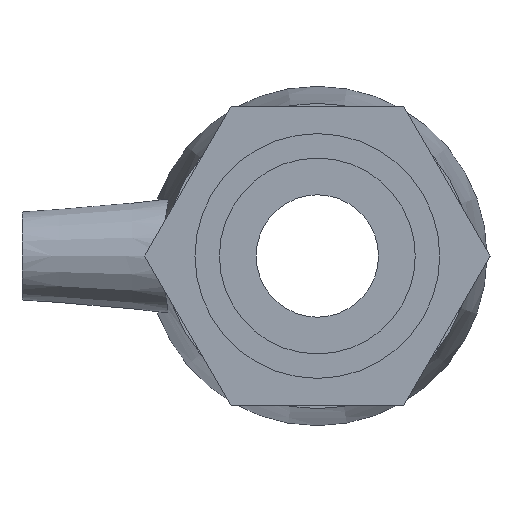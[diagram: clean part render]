
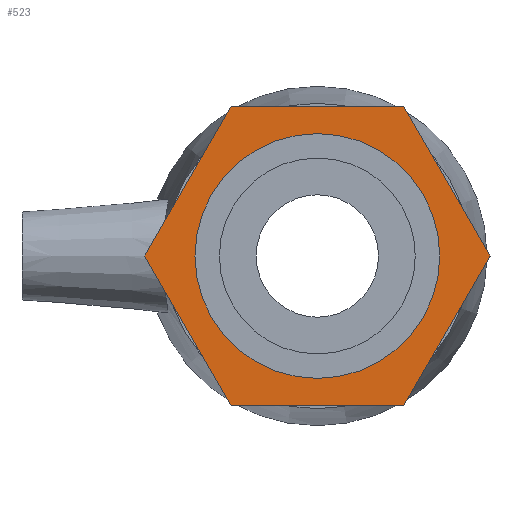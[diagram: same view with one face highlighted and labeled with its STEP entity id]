
A CAD part, left-side view. The second image highlights one B-rep face of the part: STEP entity #523.
In plain terms, the highlighted planar face has unit normal (-1, 0, 0).
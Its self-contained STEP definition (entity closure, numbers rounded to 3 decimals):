
#36=FACE_BOUND('',#154,.T.);
#68=CIRCLE('',#606,19.476);
#107=FACE_OUTER_BOUND('',#153,.T.);
#153=EDGE_LOOP('',(#447,#448,#449,#450,#451,#452));
#154=EDGE_LOOP('',(#453));
#165=LINE('',#788,#199);
#169=LINE('',#795,#203);
#172=LINE('',#801,#206);
#175=LINE('',#807,#209);
#178=LINE('',#813,#212);
#180=LINE('',#816,#214);
#199=VECTOR('',#622,10.);
#203=VECTOR('',#628,10.);
#206=VECTOR('',#633,10.);
#209=VECTOR('',#638,10.);
#212=VECTOR('',#643,10.);
#214=VECTOR('',#647,10.);
#233=VERTEX_POINT('',#785);
#234=VERTEX_POINT('',#787);
#236=VERTEX_POINT('',#793);
#238=VERTEX_POINT('',#799);
#240=VERTEX_POINT('',#805);
#242=VERTEX_POINT('',#811);
#271=VERTEX_POINT('',#978);
#277=EDGE_CURVE('',#234,#233,#165,.T.);
#281=EDGE_CURVE('',#233,#236,#169,.T.);
#284=EDGE_CURVE('',#236,#238,#172,.T.);
#287=EDGE_CURVE('',#238,#240,#175,.T.);
#290=EDGE_CURVE('',#240,#242,#178,.T.);
#292=EDGE_CURVE('',#242,#234,#180,.T.);
#335=EDGE_CURVE('',#271,#271,#68,.T.);
#447=ORIENTED_EDGE('',*,*,#284,.T.);
#448=ORIENTED_EDGE('',*,*,#287,.T.);
#449=ORIENTED_EDGE('',*,*,#290,.T.);
#450=ORIENTED_EDGE('',*,*,#292,.T.);
#451=ORIENTED_EDGE('',*,*,#277,.T.);
#452=ORIENTED_EDGE('',*,*,#281,.T.);
#453=ORIENTED_EDGE('',*,*,#335,.T.);
#489=PLANE('',#607);
#523=ADVANCED_FACE('',(#107,#36),#489,.T.);
#606=AXIS2_PLACEMENT_3D('',#980,#758,#759);
#607=AXIS2_PLACEMENT_3D('',#981,#760,#761);
#622=DIRECTION('',(0.,0.5,-0.866));
#628=DIRECTION('',(0.,-0.5,-0.866));
#633=DIRECTION('',(0.,-1.,0.));
#638=DIRECTION('',(0.,-0.5,0.866));
#643=DIRECTION('',(0.,0.5,0.866));
#647=DIRECTION('',(0.,1.,0.));
#758=DIRECTION('center_axis',(1.,0.,0.));
#759=DIRECTION('ref_axis',(0.,0.,-1.));
#760=DIRECTION('center_axis',(-1.,0.,0.));
#761=DIRECTION('ref_axis',(0.,0.,1.));
#785=CARTESIAN_POINT('',(-68.,27.476,0.));
#787=CARTESIAN_POINT('',(-68.,13.738,23.795));
#788=CARTESIAN_POINT('',(-68.,13.738,23.795));
#793=CARTESIAN_POINT('',(-68.,13.738,-23.795));
#795=CARTESIAN_POINT('',(-68.,27.476,0.));
#799=CARTESIAN_POINT('',(-68.,-13.738,-23.795));
#801=CARTESIAN_POINT('',(-68.,13.738,-23.795));
#805=CARTESIAN_POINT('',(-68.,-27.476,0.));
#807=CARTESIAN_POINT('',(-68.,-13.738,-23.795));
#811=CARTESIAN_POINT('',(-68.,-13.738,23.795));
#813=CARTESIAN_POINT('',(-68.,-27.476,0.));
#816=CARTESIAN_POINT('',(-68.,-13.738,23.795));
#978=CARTESIAN_POINT('',(-68.,-19.476,0.));
#980=CARTESIAN_POINT('Origin',(-68.,0.,0.));
#981=CARTESIAN_POINT('Origin',(-68.,20.976,0.));
